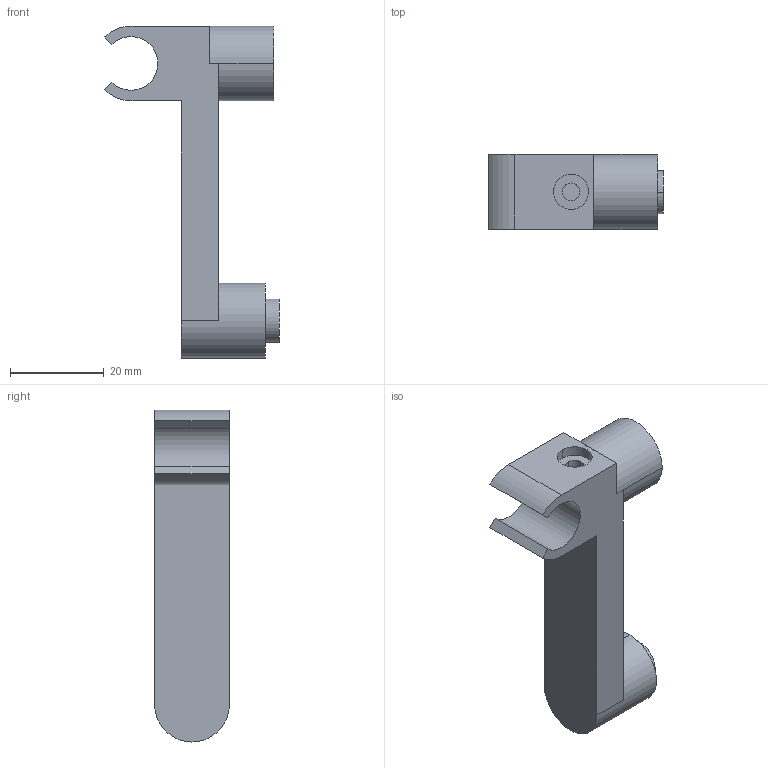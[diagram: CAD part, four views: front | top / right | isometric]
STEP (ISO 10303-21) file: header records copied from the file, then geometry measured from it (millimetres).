
FILE_DESCRIPTION (( 'STEP AP214' ), '1' );
FILE_NAME ('Querrelinghalter doppelt.STEP', '2010-09-16T13:02:56', ( 'grass' ), ( '' ), 'SwSTEP 2.0', 'SolidWorks 2010', '' );
FILE_SCHEMA (( 'AUTOMOTIVE_DESIGN' ));
Length unit declared in the file: millimetre
Products named in the file (1): Querrelinghalter doppelt
Bounding box: 37.41 x 16 x 71 mm (x, y, z)
Volume: 15532.7 mm3; surface area: 5924.8 mm2
Topology: 1 solids, 1 shells, 28 faces, 66 edges, 43 vertices
Faces by surface type: plane 15, cylinder 13
Entity records: 849 total; most frequent: DIRECTION 153, CARTESIAN_POINT 138, ORIENTED_EDGE 132, EDGE_CURVE 66, AXIS2_PLACEMENT_3D 58, VERTEX_POINT 43, LINE 37, VECTOR 37
